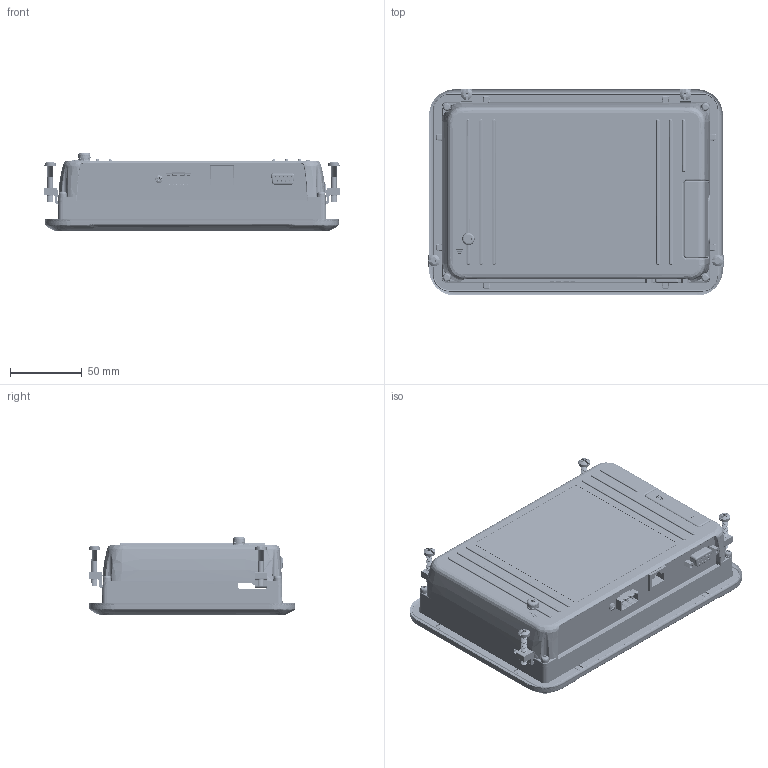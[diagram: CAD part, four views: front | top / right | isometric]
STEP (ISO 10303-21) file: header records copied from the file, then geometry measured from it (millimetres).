
FILE_DESCRIPTION (( 'STEP AP214' ), '1' );
FILE_NAME ('T7B-CD_IMX4_FinalAssy_26Apr2019.STEP', '2019-04-26T20:58:10', ( '' ), ( '' ), 'SwSTEP 2.0', 'SolidWorks 2019', '' );
FILE_SCHEMA (( 'AUTOMOTIVE_DESIGN' ));
Length unit declared in the file: millimetre
Products named in the file (53): MS-Z4200-001A_Simple; X1212; MS-Z4800-002C; FT-Z2200-001F; BT-Z3201-022; X04495; MS-Z4200-001A; ASM_DISPLAY_MEGATRON7_ASM; M3X12_1; MS-Z4201-001C; DOC-Z8100-004A_ASM; 5014S; MS-Z4261-010B_1; X1744_1; T7B-CD Foil; T7B-CD_IMX4_FinalAssy_26Apr2019; PRT0053; FT-Z2201-001F_1; LABEL-7_1; DISPLAYGASKET_7; pcba-imx4-20141208_simplified_IMX4_Basic; pcba-imx4-20141208_simplified
Assembly tree (35 placements, depth 3):
  X1212
  MS-Z4800-002C
  X04495
  MS-Z4200-001A
  M3X12_1
Bounding box: 205.2 x 143.81 x 54.05 mm (x, y, z)
Volume: 260458.5 mm3; surface area: 378101.3 mm2
Topology: 43 solids, 43 shells, 8113 faces, 20761 edges, 12810 vertices
Faces by surface type: plane 3017, cylinder 2490, bspline 1478, cone 1075, torus 53
Entity records: 276954 total; most frequent: CARTESIAN_POINT 119429, ORIENTED_EDGE 33566, DIRECTION 26847, EDGE_CURVE 16783, VERTEX_POINT 10535, LINE 9145, VECTOR 9145, AXIS2_PLACEMENT_3D 8851
